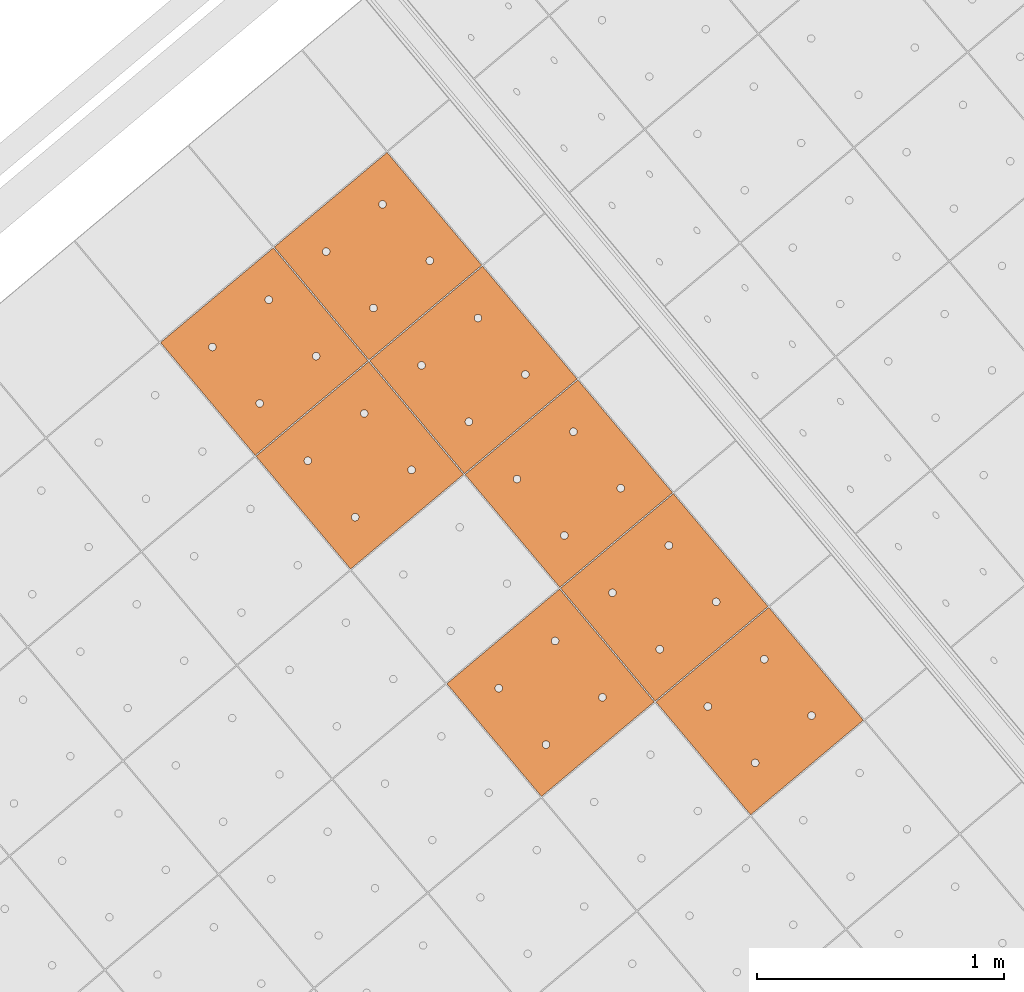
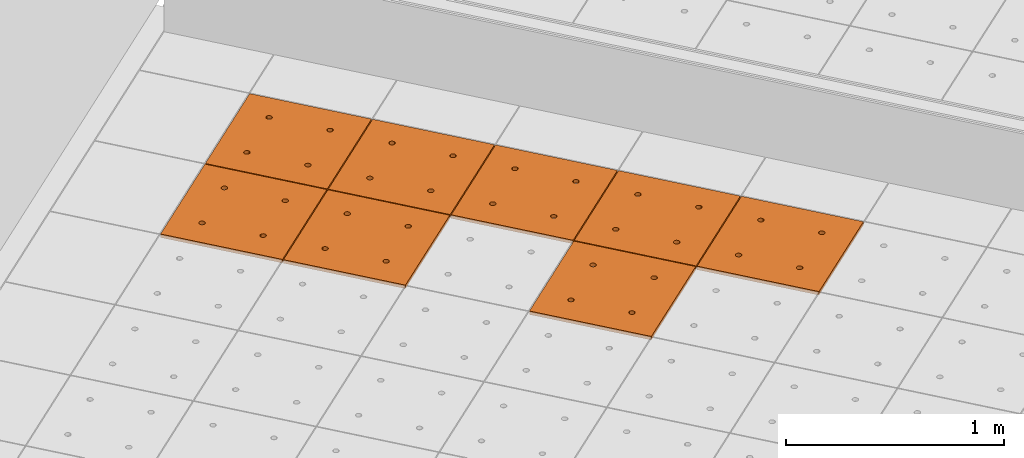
# One storey, part 159 of 338: 8 proxies, 1 element without a shape of its own.
"""IFC2X3 building model written with IfcOpenShell, lengths in millimetres."""

from ifc_helpers import new_model, entity, si_unit, converted_unit, derived_unit, money_unit, direction, frame, origin_with_axes, place, context, subcontext, project, spatial, faceted_brep, source, transform, mapped, material, type_object, type_shapes, element, aggregate, save


model = new_model("IFC2X3")

# Units and contexts
model_context = context("Model", 3, precision=0.01, world=origin_with_axes(), true_north=direction((0.0, 1.0)))
plan_context = context("Plan", 3, precision=0.01, world=origin_with_axes(), true_north=direction((0.0, 1.0)))
body_context = subcontext(model_context, "Body", "Model", "MODEL_VIEW")
ifc_project = project(units=[si_unit("LENGTHUNIT", "METRE", prefix="MILLI"), si_unit("AREAUNIT", "SQUARE_METRE"), si_unit("VOLUMEUNIT", "CUBIC_METRE"), converted_unit("PLANEANGLEUNIT", "DEGREE", entity("IfcPlaneAngleMeasure", 0.0174532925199), si_unit("PLANEANGLEUNIT", "RADIAN"), dimensions=[0, 0, 0, 0, 0, 0, 0]), money_unit("EUR"), converted_unit("TIMEUNIT", "Year", entity("IfcTimeMeasure", 31556926.0), si_unit("TIMEUNIT", "SECOND"), dimensions=[0, 0, 1, 0, 0, 0, 0]), si_unit("MASSUNIT", "GRAM", prefix="KILO"), si_unit("THERMODYNAMICTEMPERATUREUNIT", "DEGREE_CELSIUS"), si_unit("LUMINOUSINTENSITYUNIT", "LUMEN"), si_unit("ENERGYUNIT", "JOULE", prefix="MEGA"), derived_unit("THERMALCONDUCTANCEUNIT", [(si_unit("POWERUNIT", "WATT"), 1), (si_unit("LENGTHUNIT", "METRE"), -1), (si_unit("THERMODYNAMICTEMPERATUREUNIT", "KELVIN"), -1)]), derived_unit("SPECIFICHEATCAPACITYUNIT", [(si_unit("ENERGYUNIT", "JOULE"), 1), (si_unit("MASSUNIT", "GRAM", prefix="KILO"), -1), (si_unit("THERMODYNAMICTEMPERATUREUNIT", "KELVIN"), -1)]), derived_unit("MASSDENSITYUNIT", [(si_unit("MASSUNIT", "GRAM", prefix="KILO"), 1), (si_unit("VOLUMEUNIT", "CUBIC_METRE"), -1)])], contexts=[model_context, plan_context])

# Site, building, storey
site_placement = place(None, origin_with_axes())
site = spatial("IfcSite", under=ifc_project, at=site_placement, Name="Fortuinstraat Woensdrecht", CompositionType="ELEMENT")
building_placement = place(site_placement, origin_with_axes())
building = spatial("IfcBuilding", under=site, at=building_placement, Name="IKC Fortuna", CompositionType="ELEMENT")
storey_placement = place(building_placement, origin_with_axes())
storey = spatial("IfcBuildingStorey", under=building, at=storey_placement, Name="00 begane grond", CompositionType="ELEMENT", Elevation=0.0)

# Covering, proxies
covering_type = type_object("IfcCoveringType", Name="Curtain Wall Type", PredefinedType="CEILING")
covering_placement = place(storey_placement, frame((9775.85169731, -1002.28242867, 4660.0), z_axis=(0.0, 0.0, 1.0), x_axis=(1.0, 0.0, 0.0)))
covering = element("IfcCovering", 1, at=covering_placement, inside=storey, type_object=covering_type, Name="45_Plafondafwerking_P01", PredefinedType="CEILING")
ifc_material = material(Name="Gipsplaat")
building_element_proxy_type = type_object("IfcBuildingElementProxyType", Name="Main Panel 600 x 600 x 20", PredefinedType="NOTDEFINED")
shared_shape = source(origin_with_axes(), body_context, "Body", "Brep", [
    faceted_brep([(2.49999999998, 2.49999999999, -10.0), (300.0, 2.49999999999, -10.0), (300.0, 2.49999999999, 10.0), (2.49999999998, 2.49999999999, 10.0), (2.49999999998, 300.0, -10.0), (2.49999999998, 597.5, -10.0), (300.0, 597.5, -10.0), (597.5, 597.5, -10.0), (597.5, 300.0, -10.0), (597.5, 2.49999999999, -10.0), (166.25, 450.06232995, -10.0), (165.79423259, 452.64711538, -10.0), (164.896546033, 455.11348892, -10.0), (163.58421608, 457.38651108, -10.0), (161.897117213, 459.39711721, -10.0), (159.886511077, 461.08421608, -10.0), (157.613488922, 462.39654603, -10.0), (155.147115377, 463.29423259, -10.0), (152.562329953, 463.75, -10.0), (149.937670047, 463.75, -10.0), (147.352884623, 463.29423259, -10.0), (144.886511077, 462.39654603, -10.0), (142.613488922, 461.08421608, -10.0), (140.602882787, 459.39711721, -10.0), (138.91578392, 457.38651108, -10.0), (137.603453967, 455.11348892, -10.0), (136.705767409, 452.64711538, -10.0), (136.25, 450.06232995, -10.0), (136.25, 448.75, -10.0), (136.25, 447.43767005, -10.0), (136.705767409, 444.85288462, -10.0), (137.603453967, 442.38651108, -10.0), (138.91578392, 440.11348892, -10.0), (140.602882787, 438.10288279, -10.0), (142.613488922, 436.41578392, -10.0), (144.886511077, 435.10345397, -10.0), (147.352884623, 434.20576741, -10.0), (149.937670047, 433.75, -10.0), (152.562329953, 433.75, -10.0), (155.147115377, 434.20576741, -10.0), (157.613488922, 435.10345397, -10.0), (159.886511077, 436.41578392, -10.0), (161.897117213, 438.10288279, -10.0), (163.58421608, 440.11348892, -10.0), (164.896546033, 442.38651108, -10.0), (165.79423259, 444.85288462, -10.0), (166.25, 447.43767005, -10.0), (463.75, 450.06232995, -10.0), (463.29423259, 452.64711538, -10.0), (462.396546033, 455.11348892, -10.0), (461.08421608, 457.38651108, -10.0), (459.397117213, 459.39711721, -10.0), (457.386511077, 461.08421608, -10.0), (455.113488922, 462.39654603, -10.0), (452.647115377, 463.29423259, -10.0), (450.062329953, 463.75, -10.0), (447.437670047, 463.75, -10.0), (444.852884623, 463.29423259, -10.0), (442.386511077, 462.39654603, -10.0), (440.113488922, 461.08421608, -10.0), (438.102882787, 459.39711721, -10.0), (436.41578392, 457.38651108, -10.0), (435.103453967, 455.11348892, -10.0), (434.205767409, 452.64711538, -10.0), (433.75, 450.06232995, -10.0), (433.75, 448.75, -10.0), (433.75, 447.43767005, -10.0), (434.205767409, 444.85288462, -10.0), (435.103453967, 442.38651108, -10.0), (436.41578392, 440.11348892, -10.0), (438.102882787, 438.10288279, -10.0), (440.113488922, 436.41578392, -10.0), (442.386511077, 435.10345397, -10.0), (444.852884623, 434.20576741, -10.0), (447.437670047, 433.75, -10.0), (450.062329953, 433.75, -10.0), (452.647115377, 434.20576741, -10.0), (455.113488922, 435.10345397, -10.0), (457.386511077, 436.41578392, -10.0), (459.397117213, 438.10288279, -10.0), (461.08421608, 440.11348892, -10.0), (462.396546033, 442.38651108, -10.0), (463.29423259, 444.85288462, -10.0), (463.75, 447.43767005, -10.0), (463.75, 152.56232995, -10.0), (463.29423259, 155.14711538, -10.0), (462.396546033, 157.61348892, -10.0), (461.08421608, 159.88651108, -10.0), (459.397117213, 161.89711721, -10.0), (457.386511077, 163.58421608, -10.0), (455.113488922, 164.89654603, -10.0), (452.647115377, 165.79423259, -10.0), (450.062329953, 166.25, -10.0), (447.437670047, 166.25, -10.0), (444.852884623, 165.79423259, -10.0), (442.386511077, 164.89654603, -10.0), (440.113488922, 163.58421608, -10.0), (438.102882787, 161.89711721, -10.0), (436.41578392, 159.88651108, -10.0), (435.103453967, 157.61348892, -10.0), (434.205767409, 155.14711538, -10.0), (433.75, 152.56232995, -10.0), (433.75, 151.25, -10.0), (433.75, 149.93767005, -10.0), (434.205767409, 147.35288462, -10.0), (435.103453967, 144.88651108, -10.0), (436.41578392, 142.61348892, -10.0), (438.102882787, 140.60288279, -10.0), (440.113488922, 138.91578392, -10.0), (442.386511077, 137.60345397, -10.0), (444.852884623, 136.70576741, -10.0), (447.437670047, 136.25, -10.0), (450.062329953, 136.25, -10.0), (452.647115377, 136.70576741, -10.0), (455.113488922, 137.60345397, -10.0), (457.386511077, 138.91578392, -10.0), (459.397117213, 140.60288279, -10.0), (461.08421608, 142.61348892, -10.0), (462.396546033, 144.88651108, -10.0), (463.29423259, 147.35288462, -10.0), (463.75, 149.93767005, -10.0), (166.25, 152.56232995, -10.0), (165.79423259, 155.14711538, -10.0), (164.896546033, 157.61348892, -10.0), (163.58421608, 159.88651108, -10.0), (161.897117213, 161.89711721, -10.0), (159.886511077, 163.58421608, -10.0), (157.613488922, 164.89654603, -10.0), (155.147115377, 165.79423259, -10.0), (152.562329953, 166.25, -10.0), (149.937670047, 166.25, -10.0), (147.352884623, 165.79423259, -10.0), (144.886511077, 164.89654603, -10.0), (142.613488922, 163.58421608, -10.0), (140.602882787, 161.89711721, -10.0), (138.91578392, 159.88651108, -10.0), (137.603453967, 157.61348892, -10.0), (136.705767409, 155.14711538, -10.0), (136.25, 152.56232995, -10.0), (136.25, 151.25, -10.0), (136.25, 149.93767005, -10.0), (136.705767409, 147.35288462, -10.0), (137.603453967, 144.88651108, -10.0), (138.91578392, 142.61348892, -10.0), (140.602882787, 140.60288279, -10.0), (142.613488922, 138.91578392, -10.0), (144.886511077, 137.60345397, -10.0), (147.352884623, 136.70576741, -10.0), (149.937670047, 136.25, -10.0), (152.562329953, 136.25, -10.0), (155.147115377, 136.70576741, -10.0), (157.613488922, 137.60345397, -10.0), (159.886511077, 138.91578392, -10.0), (161.897117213, 140.60288279, -10.0), (163.58421608, 142.61348892, -10.0), (164.896546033, 144.88651108, -10.0), (165.79423259, 147.35288462, -10.0), (166.25, 149.93767005, -10.0), (597.5, 2.49999999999, 10.0), (597.5, 300.0, 10.0), (597.5, 597.5, 10.0), (300.0, 597.5, 10.0), (2.49999999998, 597.5, 10.0), (2.49999999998, 300.0, 10.0), (166.25, 450.06232995, 10.0), (166.25, 447.43767005, 10.0), (165.79423259, 444.85288462, 10.0), (164.896546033, 442.38651108, 10.0), (163.58421608, 440.11348892, 10.0), (161.897117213, 438.10288279, 10.0), (159.886511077, 436.41578392, 10.0), (157.613488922, 435.10345397, 10.0), (155.147115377, 434.20576741, 10.0), (152.562329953, 433.75, 10.0), (149.937670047, 433.75, 10.0), (147.352884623, 434.20576741, 10.0), (144.886511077, 435.10345397, 10.0), (142.613488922, 436.41578392, 10.0), (140.602882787, 438.10288279, 10.0), (138.91578392, 440.11348892, 10.0), (137.603453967, 442.38651108, 10.0), (136.705767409, 444.85288462, 10.0), (136.25, 447.43767005, 10.0), (136.25, 448.75, 10.0), (136.25, 450.06232995, 10.0), (136.705767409, 452.64711538, 10.0), (137.603453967, 455.11348892, 10.0), (138.91578392, 457.38651108, 10.0), (140.602882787, 459.39711721, 10.0), (142.613488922, 461.08421608, 10.0), (144.886511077, 462.39654603, 10.0), (147.352884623, 463.29423259, 10.0), (149.937670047, 463.75, 10.0), (152.562329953, 463.75, 10.0), (155.147115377, 463.29423259, 10.0), (157.613488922, 462.39654603, 10.0), (159.886511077, 461.08421608, 10.0), (161.897117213, 459.39711721, 10.0), (163.58421608, 457.38651108, 10.0), (164.896546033, 455.11348892, 10.0), (165.79423259, 452.64711538, 10.0), (463.75, 450.06232995, 10.0), (463.75, 447.43767005, 10.0), (463.29423259, 444.85288462, 10.0), (462.396546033, 442.38651108, 10.0), (461.08421608, 440.11348892, 10.0), (459.397117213, 438.10288279, 10.0), (457.386511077, 436.41578392, 10.0), (455.113488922, 435.10345397, 10.0), (452.647115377, 434.20576741, 10.0), (450.062329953, 433.75, 10.0), (447.437670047, 433.75, 10.0), (444.852884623, 434.20576741, 10.0), (442.386511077, 435.10345397, 10.0), (440.113488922, 436.41578392, 10.0), (438.102882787, 438.10288279, 10.0), (436.41578392, 440.11348892, 10.0), (435.103453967, 442.38651108, 10.0), (434.205767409, 444.85288462, 10.0), (433.75, 447.43767005, 10.0), (433.75, 448.75, 10.0), (433.75, 450.06232995, 10.0), (434.205767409, 452.64711538, 10.0), (435.103453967, 455.11348892, 10.0), (436.41578392, 457.38651108, 10.0), (438.102882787, 459.39711721, 10.0), (440.113488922, 461.08421608, 10.0), (442.386511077, 462.39654603, 10.0), (444.852884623, 463.29423259, 10.0), (447.437670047, 463.75, 10.0), (450.062329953, 463.75, 10.0), (452.647115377, 463.29423259, 10.0), (455.113488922, 462.39654603, 10.0), (457.386511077, 461.08421608, 10.0), (459.397117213, 459.39711721, 10.0), (461.08421608, 457.38651108, 10.0), (462.396546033, 455.11348892, 10.0), (463.29423259, 452.64711538, 10.0), (463.75, 152.56232995, 10.0), (463.75, 149.93767005, 10.0), (463.29423259, 147.35288462, 10.0), (462.396546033, 144.88651108, 10.0), (461.08421608, 142.61348892, 10.0), (459.397117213, 140.60288279, 10.0), (457.386511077, 138.91578392, 10.0), (455.113488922, 137.60345397, 10.0), (452.647115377, 136.70576741, 10.0), (450.062329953, 136.25, 10.0), (447.437670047, 136.25, 10.0), (444.852884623, 136.70576741, 10.0), (442.386511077, 137.60345397, 10.0), (440.113488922, 138.91578392, 10.0), (438.102882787, 140.60288279, 10.0), (436.41578392, 142.61348892, 10.0), (435.103453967, 144.88651108, 10.0), (434.205767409, 147.35288462, 10.0), (433.75, 149.93767005, 10.0), (433.75, 151.25, 10.0), (433.75, 152.56232995, 10.0), (434.205767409, 155.14711538, 10.0), (435.103453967, 157.61348892, 10.0), (436.41578392, 159.88651108, 10.0), (438.102882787, 161.89711721, 10.0), (440.113488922, 163.58421608, 10.0), (442.386511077, 164.89654603, 10.0), (444.852884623, 165.79423259, 10.0), (447.437670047, 166.25, 10.0), (450.062329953, 166.25, 10.0), (452.647115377, 165.79423259, 10.0), (455.113488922, 164.89654603, 10.0), (457.386511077, 163.58421608, 10.0), (459.397117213, 161.89711721, 10.0), (461.08421608, 159.88651108, 10.0), (462.396546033, 157.61348892, 10.0), (463.29423259, 155.14711538, 10.0), (166.25, 152.56232995, 10.0), (166.25, 149.93767005, 10.0), (165.79423259, 147.35288462, 10.0), (164.896546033, 144.88651108, 10.0), (163.58421608, 142.61348892, 10.0), (161.897117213, 140.60288279, 10.0), (159.886511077, 138.91578392, 10.0), (157.613488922, 137.60345397, 10.0), (155.147115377, 136.70576741, 10.0), (152.562329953, 136.25, 10.0), (149.937670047, 136.25, 10.0), (147.352884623, 136.70576741, 10.0), (144.886511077, 137.60345397, 10.0), (142.613488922, 138.91578392, 10.0), (140.602882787, 140.60288279, 10.0), (138.91578392, 142.61348892, 10.0), (137.603453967, 144.88651108, 10.0), (136.705767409, 147.35288462, 10.0), (136.25, 149.93767005, 10.0), (136.25, 151.25, 10.0), (136.25, 152.56232995, 10.0), (136.705767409, 155.14711538, 10.0), (137.603453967, 157.61348892, 10.0), (138.91578392, 159.88651108, 10.0), (140.602882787, 161.89711721, 10.0), (142.613488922, 163.58421608, 10.0), (144.886511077, 164.89654603, 10.0), (147.352884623, 165.79423259, 10.0), (149.937670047, 166.25, 10.0), (152.562329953, 166.25, 10.0), (155.147115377, 165.79423259, 10.0), (157.613488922, 164.89654603, 10.0), (159.886511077, 163.58421608, 10.0), (161.897117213, 161.89711721, 10.0), (163.58421608, 159.88651108, 10.0), (164.896546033, 157.61348892, 10.0), (165.79423259, 155.14711538, 10.0)], [[[0, 1, 2, 3]], [[0, 4, 5, 6, 7, 8, 9, 1], [10, 11, 12, 13, 14, 15, 16, 17, 18, 19, 20, 21, 22, 23, 24, 25, 26, 27, 28, 29, 30, 31, 32, 33, 34, 35, 36, 37, 38, 39, 40, 41, 42, 43, 44, 45, 46], [47, 48, 49, 50, 51, 52, 53, 54, 55, 56, 57, 58, 59, 60, 61, 62, 63, 64, 65, 66, 67, 68, 69, 70, 71, 72, 73, 74, 75, 76, 77, 78, 79, 80, 81, 82, 83], [84, 85, 86, 87, 88, 89, 90, 91, 92, 93, 94, 95, 96, 97, 98, 99, 100, 101, 102, 103, 104, 105, 106, 107, 108, 109, 110, 111, 112, 113, 114, 115, 116, 117, 118, 119, 120], [121, 122, 123, 124, 125, 126, 127, 128, 129, 130, 131, 132, 133, 134, 135, 136, 137, 138, 139, 140, 141, 142, 143, 144, 145, 146, 147, 148, 149, 150, 151, 152, 153, 154, 155, 156, 157]], [[1, 9, 158, 2]], [[3, 2, 158, 159, 160, 161, 162, 163], [164, 165, 166, 167, 168, 169, 170, 171, 172, 173, 174, 175, 176, 177, 178, 179, 180, 181, 182, 183, 184, 185, 186, 187, 188, 189, 190, 191, 192, 193, 194, 195, 196, 197, 198, 199, 200], [201, 202, 203, 204, 205, 206, 207, 208, 209, 210, 211, 212, 213, 214, 215, 216, 217, 218, 219, 220, 221, 222, 223, 224, 225, 226, 227, 228, 229, 230, 231, 232, 233, 234, 235, 236, 237], [238, 239, 240, 241, 242, 243, 244, 245, 246, 247, 248, 249, 250, 251, 252, 253, 254, 255, 256, 257, 258, 259, 260, 261, 262, 263, 264, 265, 266, 267, 268, 269, 270, 271, 272, 273, 274], [275, 276, 277, 278, 279, 280, 281, 282, 283, 284, 285, 286, 287, 288, 289, 290, 291, 292, 293, 294, 295, 296, 297, 298, 299, 300, 301, 302, 303, 304, 305, 306, 307, 308, 309, 310, 311]], [[4, 0, 3, 163]], [[5, 4, 163, 162]], [[6, 5, 162, 161]], [[7, 6, 161, 160]], [[8, 7, 160, 159]], [[9, 8, 159, 158]], [[11, 10, 164, 200]], [[12, 11, 200, 199]], [[13, 12, 199, 198]], [[14, 13, 198, 197]], [[15, 14, 197, 196]], [[16, 15, 196, 195]], [[17, 16, 195, 194]], [[18, 17, 194, 193]], [[19, 18, 193, 192]], [[20, 19, 192, 191]], [[21, 20, 191, 190]], [[22, 21, 190, 189]], [[23, 22, 189, 188]], [[24, 23, 188, 187]], [[25, 24, 187, 186]], [[26, 25, 186, 185]], [[27, 26, 185, 184]], [[28, 27, 184, 183]], [[29, 28, 183, 182]], [[30, 29, 182, 181]], [[31, 30, 181, 180]], [[32, 31, 180, 179]], [[33, 32, 179, 178]], [[34, 33, 178, 177]], [[35, 34, 177, 176]], [[36, 35, 176, 175]], [[37, 36, 175, 174]], [[38, 37, 174, 173]], [[39, 38, 173, 172]], [[40, 39, 172, 171]], [[41, 40, 171, 170]], [[42, 41, 170, 169]], [[43, 42, 169, 168]], [[44, 43, 168, 167]], [[45, 44, 167, 166]], [[46, 45, 166, 165]], [[10, 46, 165, 164]], [[48, 47, 201, 237]], [[49, 48, 237, 236]], [[50, 49, 236, 235]], [[51, 50, 235, 234]], [[52, 51, 234, 233]], [[53, 52, 233, 232]], [[54, 53, 232, 231]], [[55, 54, 231, 230]], [[56, 55, 230, 229]], [[57, 56, 229, 228]], [[58, 57, 228, 227]], [[59, 58, 227, 226]], [[60, 59, 226, 225]], [[61, 60, 225, 224]], [[62, 61, 224, 223]], [[63, 62, 223, 222]], [[64, 63, 222, 221]], [[65, 64, 221, 220]], [[66, 65, 220, 219]], [[67, 66, 219, 218]], [[68, 67, 218, 217]], [[69, 68, 217, 216]], [[70, 69, 216, 215]], [[71, 70, 215, 214]], [[72, 71, 214, 213]], [[73, 72, 213, 212]], [[74, 73, 212, 211]], [[75, 74, 211, 210]], [[76, 75, 210, 209]], [[77, 76, 209, 208]], [[78, 77, 208, 207]], [[79, 78, 207, 206]], [[80, 79, 206, 205]], [[81, 80, 205, 204]], [[82, 81, 204, 203]], [[83, 82, 203, 202]], [[47, 83, 202, 201]], [[85, 84, 238, 274]], [[86, 85, 274, 273]], [[87, 86, 273, 272]], [[88, 87, 272, 271]], [[89, 88, 271, 270]], [[90, 89, 270, 269]], [[91, 90, 269, 268]], [[92, 91, 268, 267]], [[93, 92, 267, 266]], [[94, 93, 266, 265]], [[95, 94, 265, 264]], [[96, 95, 264, 263]], [[97, 96, 263, 262]], [[98, 97, 262, 261]], [[99, 98, 261, 260]], [[100, 99, 260, 259]], [[101, 100, 259, 258]], [[102, 101, 258, 257]], [[103, 102, 257, 256]], [[104, 103, 256, 255]], [[105, 104, 255, 254]], [[106, 105, 254, 253]], [[107, 106, 253, 252]], [[108, 107, 252, 251]], [[109, 108, 251, 250]], [[110, 109, 250, 249]], [[111, 110, 249, 248]], [[112, 111, 248, 247]], [[113, 112, 247, 246]], [[114, 113, 246, 245]], [[115, 114, 245, 244]], [[116, 115, 244, 243]], [[117, 116, 243, 242]], [[118, 117, 242, 241]], [[119, 118, 241, 240]], [[120, 119, 240, 239]], [[84, 120, 239, 238]], [[122, 121, 275, 311]], [[123, 122, 311, 310]], [[124, 123, 310, 309]], [[125, 124, 309, 308]], [[126, 125, 308, 307]], [[127, 126, 307, 306]], [[128, 127, 306, 305]], [[129, 128, 305, 304]], [[130, 129, 304, 303]], [[131, 130, 303, 302]], [[132, 131, 302, 301]], [[133, 132, 301, 300]], [[134, 133, 300, 299]], [[135, 134, 299, 298]], [[136, 135, 298, 297]], [[137, 136, 297, 296]], [[138, 137, 296, 295]], [[139, 138, 295, 294]], [[140, 139, 294, 293]], [[141, 140, 293, 292]], [[142, 141, 292, 291]], [[143, 142, 291, 290]], [[144, 143, 290, 289]], [[145, 144, 289, 288]], [[146, 145, 288, 287]], [[147, 146, 287, 286]], [[148, 147, 286, 285]], [[149, 148, 285, 284]], [[150, 149, 284, 283]], [[151, 150, 283, 282]], [[152, 151, 282, 281]], [[153, 152, 281, 280]], [[154, 153, 280, 279]], [[155, 154, 279, 278]], [[156, 155, 278, 277]], [[157, 156, 277, 276]], [[121, 157, 276, 275]]]),
])
type_shapes(building_element_proxy_type, [shared_shape])
proxy_1_placement = place(covering_placement, frame((-3856.72683929, 4596.26569678, 0.0), z_axis=(0.0, 0.0, 1.0), x_axis=(1.0, 0.0, 0.0)))
proxy_1 = element("IfcBuildingElementProxy", 2, at=proxy_1_placement, type_object=building_element_proxy_type, material=ifc_material, Name="__600x639 Rockfon Krios", context=body_context, shape_type="MappedRepresentation", body=[
    mapped(shared_shape, transform((36.9769427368, 422.649625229, 0.0), x_axis=(-0.766044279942, -0.642787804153, 0.0), y_axis=(0.642787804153, -0.766044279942, 0.0), z_axis=(0.0, 0.0, 1.0))),
])
proxy_2_placement = place(covering_placement, frame((-3471.05415679, 4136.63912881, 0.0), z_axis=(0.0, 0.0, 1.0), x_axis=(1.0, 0.0, 0.0)))
proxy_2 = element("IfcBuildingElementProxy", 3, at=proxy_2_placement, type_object=building_element_proxy_type, material=ifc_material, Name="__600x640 Rockfon Krios", context=body_context, shape_type="MappedRepresentation", body=[
    mapped(shared_shape, transform((36.9769427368, 422.649625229, 0.0), x_axis=(-0.766044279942, -0.642787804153, 0.0), y_axis=(0.642787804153, -0.766044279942, 0.0), z_axis=(0.0, 0.0, 1.0))),
])
proxy_3_placement = place(covering_placement, frame((-4316.35340725, 4210.59301428, 0.0), z_axis=(0.0, 0.0, 1.0), x_axis=(1.0, 0.0, 0.0)))
proxy_3 = element("IfcBuildingElementProxy", 4, at=proxy_3_placement, type_object=building_element_proxy_type, material=ifc_material, Name="__600x643 Rockfon Krios", context=body_context, shape_type="MappedRepresentation", body=[
    mapped(shared_shape, transform((36.9769427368, 422.649625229, 0.0), x_axis=(-0.766044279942, -0.642787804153, 0.0), y_axis=(0.642787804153, -0.766044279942, 0.0), z_axis=(0.0, 0.0, 1.0))),
])
proxy_4_placement = place(covering_placement, frame((-3930.68072476, 3750.96644632, 0.0), z_axis=(0.0, 0.0, 1.0), x_axis=(1.0, 0.0, 0.0)))
proxy_4 = element("IfcBuildingElementProxy", 5, at=proxy_4_placement, type_object=building_element_proxy_type, material=ifc_material, Name="__600x644 Rockfon Krios", context=body_context, shape_type="MappedRepresentation", body=[
    mapped(shared_shape, transform((36.9769427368, 422.649625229, 0.0), x_axis=(-0.766044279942, -0.642787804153, 0.0), y_axis=(0.642787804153, -0.766044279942, 0.0), z_axis=(0.0, 0.0, 1.0))),
])
proxy_5_placement = place(covering_placement, frame((-3085.3814743, 3677.01256085, 0.0), z_axis=(0.0, 0.0, 1.0), x_axis=(1.0, 0.0, 0.0)))
proxy_5 = element("IfcBuildingElementProxy", 6, at=proxy_5_placement, type_object=building_element_proxy_type, material=ifc_material, Name="__600x660 Rockfon Krios", context=body_context, shape_type="MappedRepresentation", body=[
    mapped(shared_shape, transform((36.9769427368, 422.649625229, 0.0), x_axis=(-0.766044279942, -0.642787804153, 0.0), y_axis=(0.642787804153, -0.766044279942, 0.0), z_axis=(0.0, 0.0, 1.0))),
])
proxy_6_placement = place(covering_placement, frame((-2699.70879181, 3217.38599288, 0.0), z_axis=(0.0, 0.0, 1.0), x_axis=(1.0, 0.0, 0.0)))
proxy_6 = element("IfcBuildingElementProxy", 7, at=proxy_6_placement, type_object=building_element_proxy_type, material=ifc_material, Name="__600x691 Rockfon Krios", context=body_context, shape_type="MappedRepresentation", body=[
    mapped(shared_shape, transform((36.9769427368, 422.649625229, 0.0), x_axis=(-0.766044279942, -0.642787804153, 0.0), y_axis=(0.642787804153, -0.766044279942, 0.0), z_axis=(0.0, 0.0, 1.0))),
])
proxy_7_placement = place(covering_placement, frame((-2314.03610932, 2757.75942491, 0.0), z_axis=(0.0, 0.0, 1.0), x_axis=(1.0, 0.0, 0.0)))
proxy_7 = element("IfcBuildingElementProxy", 8, at=proxy_7_placement, type_object=building_element_proxy_type, material=ifc_material, Name="__600x692 Rockfon Krios", context=body_context, shape_type="MappedRepresentation", body=[
    mapped(shared_shape, transform((36.9769427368, 422.649625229, 0.0), x_axis=(-0.766044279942, -0.642787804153, 0.0), y_axis=(0.642787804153, -0.766044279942, 0.0), z_axis=(0.0, 0.0, 1.0))),
])
proxy_8_placement = place(covering_placement, frame((-3159.33535978, 2831.71331039, 0.0), z_axis=(0.0, 0.0, 1.0), x_axis=(1.0, 0.0, 0.0)))
proxy_8 = element("IfcBuildingElementProxy", 9, at=proxy_8_placement, type_object=building_element_proxy_type, material=ifc_material, Name="__600x700 Rockfon Krios", context=body_context, shape_type="MappedRepresentation", body=[
    mapped(shared_shape, transform((36.9769427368, 422.649625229, 0.0), x_axis=(-0.766044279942, -0.642787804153, 0.0), y_axis=(0.642787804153, -0.766044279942, 0.0), z_axis=(0.0, 0.0, 1.0))),
])
aggregate(covering, [proxy_1, proxy_2, proxy_3, proxy_4, proxy_5, proxy_6, proxy_7, proxy_8])

save(model, "model.ifc")
